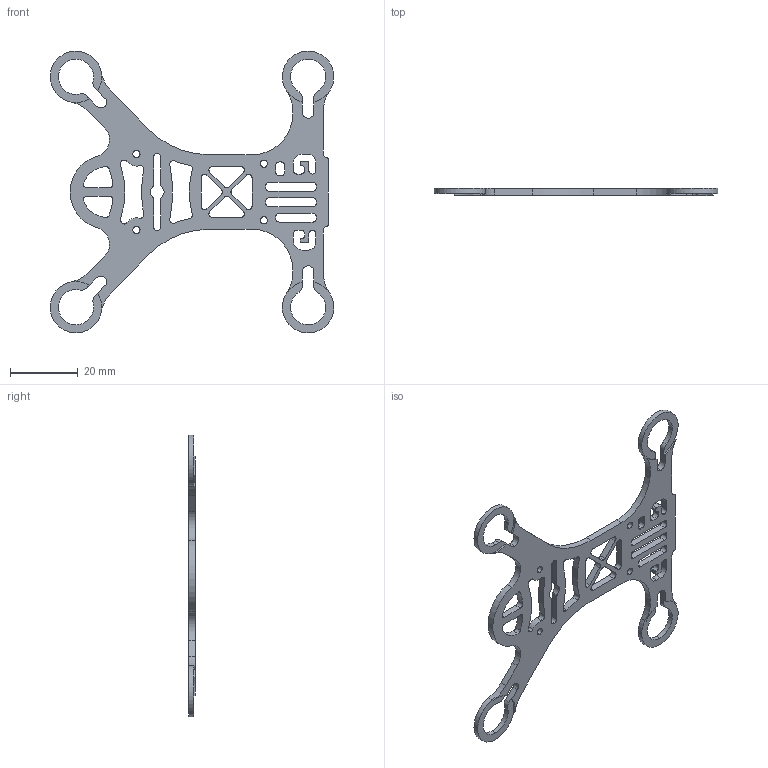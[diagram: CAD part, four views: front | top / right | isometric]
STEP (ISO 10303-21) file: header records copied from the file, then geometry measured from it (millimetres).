
FILE_DESCRIPTION (( 'STEP AP203' ), '1' );
FILE_NAME ('Frame PC.STEP', '2017-05-17T21:43:39', ( '' ), ( '' ), 'SwSTEP 2.0', 'SolidWorks 2014', '' );
FILE_SCHEMA (( 'CONFIG_CONTROL_DESIGN' ));
Length unit declared in the file: millimetre
Products named in the file (1): Frame PC
Bounding box: 83.66 x 2 x 83.2 mm (x, y, z)
Volume: 4071.8 mm3; surface area: 6342.6 mm2
Topology: 1 solids, 1 shells, 241 faces, 721 edges, 478 vertices
Faces by surface type: cylinder 160, plane 81
Entity records: 8420 total; most frequent: DIRECTION 1525, ORIENTED_EDGE 1442, CARTESIAN_POINT 1441, EDGE_CURVE 721, AXIS2_PLACEMENT_3D 562, VERTEX_POINT 478, LINE 401, VECTOR 401
